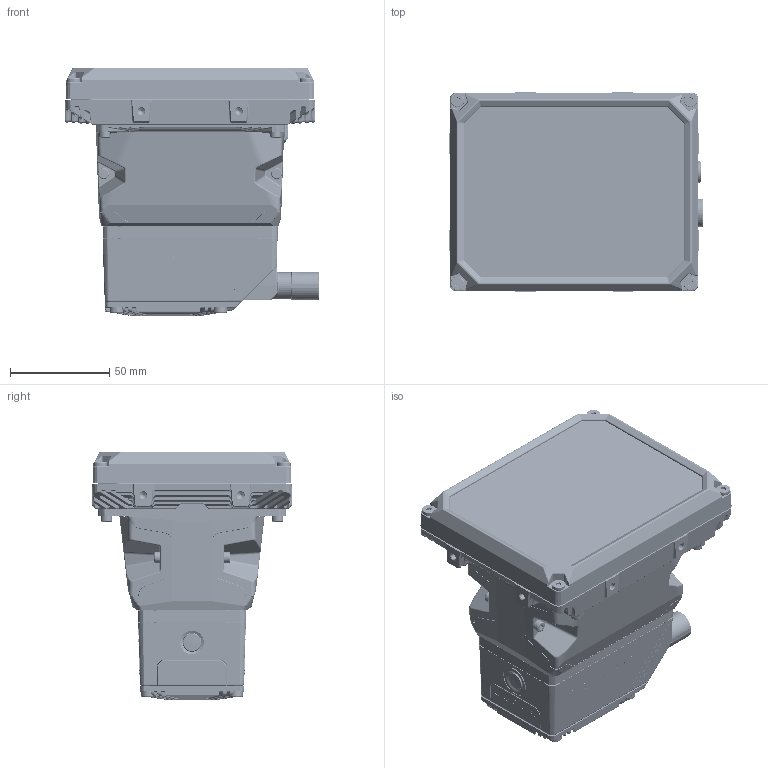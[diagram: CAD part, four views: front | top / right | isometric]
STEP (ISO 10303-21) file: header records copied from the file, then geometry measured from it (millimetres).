
FILE_DESCRIPTION(/* description */ (''),/* implementation_level */ '2;1');
FILE_NAME(/* name */ 'AP035886_00-P2X C-Mount 36 led 0_ portrait.stp',/* time_stamp */ '2022-03-16T16:10:16+01:00',/* author */ (''),/* organization */ (''),/* preprocessor_version */ 'ST-DEVELOPER v16.7',/* originating_system */ 'SIEMENS PLM Software NX 1946',/* authorisation */ '');
FILE_SCHEMA (('AUTOMOTIVE_DESIGN { 1 0 10303 214 3 1 1 1 }'));
Products named in the file (1): FGutB01403CDtyne
Bounding box: 127.95 x 101 x 124.8 mm (x, y, z)
Volume: 607042.3 mm3; surface area: 117905.8 mm2
Topology: 1 solids, 25 shells, 7414 faces, 17796 edges, 10389 vertices
Faces by surface type: bspline 2370, cylinder 2255, plane 2070, cone 264, torus 243, sphere 128, extrusion 84
Full cylindrical faces by diameter (mm): 0.6 x7, 2.3 x4, 3.2 x5, 3.3 x17, 3.5 x5, 5.5 x8, 6.2 x4, 6.9 x4, 7 x3, 9.5 x2, 10.5 x1, 10.7 x1, 10.8 x1, 11.15 x1, 11.85 x1, 12.2 x1, 13.5 x2, 14 x1, 15 x1, 16 x1
Entity records: 286277 total; most frequent: CARTESIAN_POINT 106740, ORIENTED_EDGE 34558, DIRECTION 30170, EDGE_CURVE 17279, AXIS2_PLACEMENT_3D 11739, VERTEX_POINT 10302, EDGE_LOOP 7824, ADVANCED_FACE 7412
